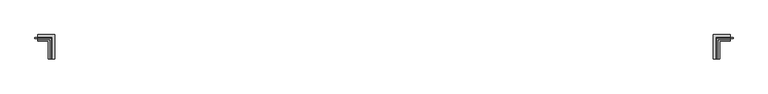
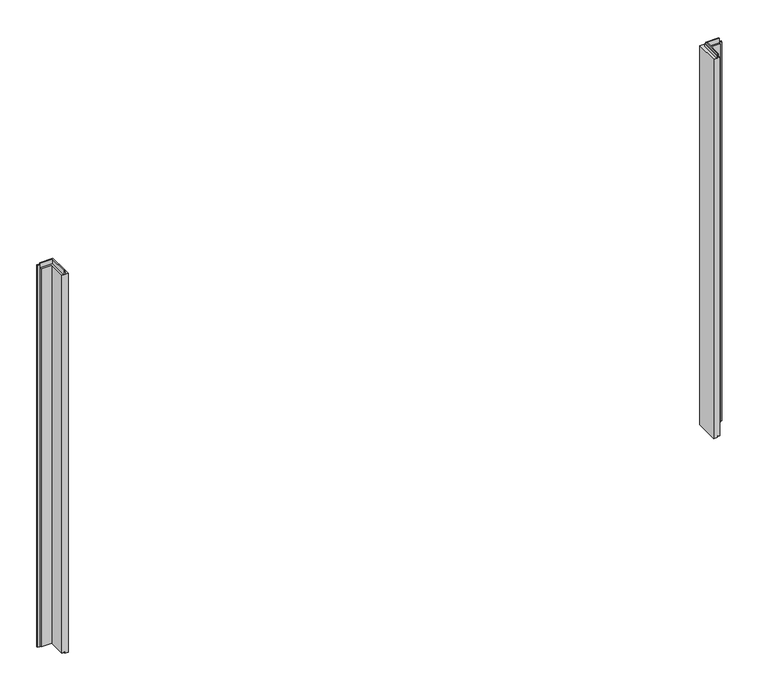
"""IFC4 building model written with IfcOpenShell, lengths in millimetres: plate geometry, Trimo_Qbiss Screen_Wall Opening Trims-HORIZONTAL : HR - B."""

from ifc_helpers import new_model, si_unit, frame, origin, origin_with_axes, place, context, project, spatial, polyline, outline, extrude, faceted_brep, source, transform, mapped, element, save


def plate_49ad595c(model_context):
    return source(origin(), model_context, "Body", "SolidModel", [
        extrude(outline(polyline([(-2735.0, 71.0), (-2735.0, 76.0), (-2625.0, 76.0), (-2625.0, -92.0), (-2630.0, -92.0), (-2630.0, 71.0), (-2735.0, 71.0)])), frame((0.0, 0.0, 3229.8), z_axis=(0.0, 0.0, 1.0), x_axis=(1.0, 0.0, 0.0)), (0.0, 0.0, 1.0), 21.0),
        extrude(outline(polyline([(2629.0, -92.0), (2624.0, -92.0), (2624.0, 76.0), (2735.0, 76.0), (2735.0, 71.0), (2629.0, 71.0), (2629.0, -92.0)])), frame((0.0, 0.0, 3229.8), z_axis=(0.0, 0.0, 1.0), x_axis=(1.0, 0.0, 0.0)), (0.0, 0.0, 1.0), 21.0),
        faceted_brep([(-2735.0, 71.0, 3228.8), (-2735.0, 100.0, 3228.8), (-2735.0, 100.0, 0.0), (-2735.0, 72.0, 0.0), (-2735.0, 72.0, 15.5), (-2735.0, 62.0, 15.5), (-2735.0, 62.0, 7.0), (-2735.0, 50.0, 7.0), (-2735.0, 50.0, 3228.8), (-2735.0, 63.0, 3228.8), (-2735.0, 63.0, 3266.3), (-2735.0, 71.0, 3266.3), (-2629.0, 71.0, 3228.8), (-2629.0, -92.0, 3228.8), (-2600.0, -92.0, 3228.8), (-2600.0, 100.0, 3228.8), (-2600.0, 100.0, 0.0), (-2600.0, -92.0, 0.0), (-2628.0, -92.0, 0.0), (-2628.0, 72.0, 0.0), (-2628.0, 72.0, 15.5), (-2628.0, -92.0, 15.5), (-2638.0, -92.0, 15.5), (-2638.0, 62.0, 15.5), (-2638.0, 62.0, 7.0), (-2638.0, -92.0, 7.0), (-2650.0, -92.0, 7.0), (-2650.0, 50.0, 7.0), (-2650.0, 50.0, 3228.8), (-2650.0, -92.0, 3228.8), (-2637.0, -92.0, 3228.8), (-2637.0, 63.0, 3228.8), (-2637.0, 63.0, 3266.3), (-2637.0, -92.0, 3266.3), (-2629.0, -92.0, 3266.3), (-2629.0, 71.0, 3266.3)], [[[0, 1, 2, 3, 4, 5, 6, 7, 8, 9, 10, 11]], [[1, 0, 12, 13, 14, 15]], [[2, 1, 15, 16]], [[3, 2, 16, 17, 18, 19]], [[4, 3, 19, 20]], [[5, 4, 20, 21, 22, 23]], [[6, 5, 23, 24]], [[7, 6, 24, 25, 26, 27]], [[8, 7, 27, 28]], [[9, 8, 28, 29, 30, 31]], [[10, 9, 31, 32]], [[11, 10, 32, 33, 34, 35]], [[0, 11, 35, 12]], [[13, 34, 33, 30, 29, 26, 25, 22, 21, 18, 17, 14]], [[16, 15, 14, 17]], [[20, 19, 18, 21]], [[24, 23, 22, 25]], [[28, 27, 26, 29]], [[32, 31, 30, 33]], [[12, 35, 34, 13]]]),
        faceted_brep([(2629.0, -92.0, 3228.8), (2600.0, -92.0, 3228.8), (2600.0, -92.0, 0.0), (2628.0, -92.0, 0.0), (2628.0, -92.0, 15.5), (2638.0, -92.0, 15.5), (2638.0, -92.0, 7.0), (2650.0, -92.0, 7.0), (2650.0, -92.0, 3228.8), (2637.0, -92.0, 3228.8), (2637.0, -92.0, 3266.3), (2629.0, -92.0, 3266.3), (2600.0, 100.0, 0.0), (2600.0, 100.0, 3228.8), (2735.0, 100.0, 3228.8), (2735.0, 100.0, 0.0), (2628.0, 72.0, 15.5), (2628.0, 72.0, 0.0), (2735.0, 72.0, 0.0), (2735.0, 72.0, 15.5), (2638.0, 62.0, 7.0), (2638.0, 62.0, 15.5), (2735.0, 62.0, 15.5), (2735.0, 62.0, 7.0), (2650.0, 50.0, 3228.8), (2650.0, 50.0, 7.0), (2735.0, 50.0, 7.0), (2735.0, 50.0, 3228.8), (2637.0, 63.0, 3266.3), (2637.0, 63.0, 3228.8), (2735.0, 63.0, 3228.8), (2735.0, 63.0, 3266.3), (2629.0, 71.0, 3228.8), (2629.0, 71.0, 3266.3), (2735.0, 71.0, 3266.3), (2735.0, 71.0, 3228.8)], [[[0, 1, 2, 3, 4, 5, 6, 7, 8, 9, 10, 11]], [[12, 13, 14, 15]], [[16, 17, 18, 19]], [[20, 21, 22, 23]], [[24, 25, 26, 27]], [[28, 29, 30, 31]], [[32, 33, 34, 35]], [[35, 34, 31, 30, 27, 26, 23, 22, 19, 18, 15, 14]], [[1, 0, 32, 35, 14, 13]], [[2, 1, 13, 12]], [[3, 2, 12, 15, 18, 17]], [[4, 3, 17, 16]], [[5, 4, 16, 19, 22, 21]], [[6, 5, 21, 20]], [[7, 6, 20, 23, 26, 25]], [[8, 7, 25, 24]], [[9, 8, 24, 27, 30, 29]], [[10, 9, 29, 28]], [[11, 10, 28, 31, 34, 33]], [[0, 11, 33, 32]]]),
        extrude(outline(polyline([(2738.0, 76.5978162), (2757.0, 76.5978162), (2757.0, 67.8978162), (2738.0, 67.8978162), (2738.0, 76.5978162)])), origin_with_axes(), (0.0, 0.0, 1.0), 3228.8),
        extrude(outline(polyline([(-2738.0, 76.5978162), (-2738.0, 67.8978162), (-2757.0, 67.8978162), (-2757.0, 76.5978162), (-2738.0, 76.5978162)])), origin_with_axes(), (0.0, 0.0, 1.0), 3251.8),
    ])


if __name__ == "__main__":
    model = new_model("IFC4")
    model_context = context("Model", 3, world=origin())
    ifc_project = project(units=[si_unit("LENGTHUNIT", "METRE", prefix="MILLI")], contexts=[model_context])
    site = spatial("IfcSite", under=ifc_project)
    building = spatial("IfcBuilding", under=site)
    placement = place(None, origin())
    plate_shape = plate_49ad595c(model_context)
    element("IfcPlate", 1, ObjectType="Trimo_Qbiss Screen_Wall Opening Trims-HORIZONTAL : HR - B", at=placement, inside=building, context=model_context, shape_type="MappedRepresentation", body=[
        mapped(plate_shape, transform((0.0, 0.0, 0.0), x_axis=(1.0, 0.0, 0.0), y_axis=(0.0, 1.0, 0.0), z_axis=(0.0, 0.0, 1.0))),
    ])
    save(model, "model.ifc")
